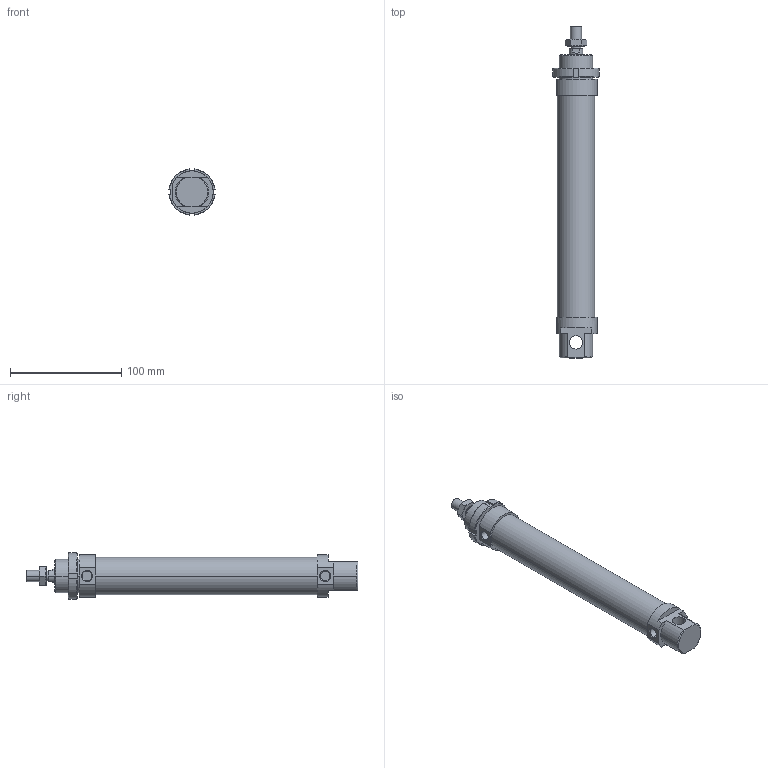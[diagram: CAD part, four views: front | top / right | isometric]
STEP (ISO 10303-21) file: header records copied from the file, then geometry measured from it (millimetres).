
FILE_DESCRIPTION((''),'2;1');
FILE_NAME('I:\DOC-EDP\Lib-3d\1200\CILINDRI\1280\1280_32_0160.stp','2003-04-07T19:04:46',('maffial1'),(''),'Autodesk Inventor (R) 6.0','Autodesk Inventor (R) 6.0','');
FILE_SCHEMA(('AUTOMOTIVE_DESIGN { 1 0 10303 214 1 1 1 1 }'));
Length unit declared in the file: millimetre
Products named in the file (5): 1280_32_0160; S1280_32_160; 1200_32_05; 1200_32_06; C1280_32_160
Assembly tree (4 placements, depth 2):
  1280_32_0160
    S1280_32_160
    1200_32_05
    1200_32_06
    C1280_32_160
Bounding box: 41.7 x 299 x 41.7 mm (x, y, z)
Volume: 243562 mm3; surface area: 52449.8 mm2
Topology: 4 solids, 4 shells, 122 faces, 286 edges, 180 vertices
Faces by surface type: plane 44, cone 32, cylinder 26, bspline 20
Entity records: 3831 total; most frequent: CARTESIAN_POINT 997, DIRECTION 582, ORIENTED_EDGE 572, EDGE_CURVE 286, AXIS2_PLACEMENT_3D 229, VERTEX_POINT 180, EDGE_LOOP 136, VECTOR 124
